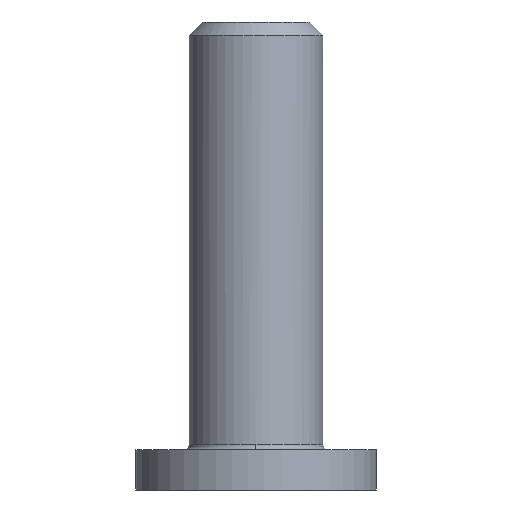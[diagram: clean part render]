
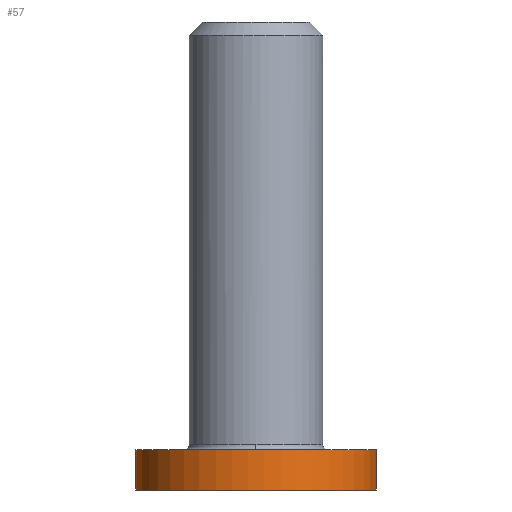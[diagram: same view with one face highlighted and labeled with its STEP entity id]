
A CAD part, left-side view. The second image highlights one B-rep face of the part: STEP entity #57.
In plain terms, the highlighted free-form (B-spline) face has degree [2, 1] with [9, 2] control points.
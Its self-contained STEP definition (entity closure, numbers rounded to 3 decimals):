
#57=ADVANCED_FACE('',(#82),#798,.T.);
#82=FACE_OUTER_BOUND('',#108,.T.);
#108=EDGE_LOOP('',(#213,#214,#215,#216));
#213=ORIENTED_EDGE('',*,*,#552,.F.);
#214=ORIENTED_EDGE('',*,*,#608,.T.);
#215=ORIENTED_EDGE('',*,*,#554,.F.);
#216=ORIENTED_EDGE('',*,*,#607,.F.);
#259=(
BOUNDED_CURVE()
B_SPLINE_CURVE(2,(#1603,#1604,#1605,#1606,#1607),.UNSPECIFIED.,.F.,.F.)
B_SPLINE_CURVE_WITH_KNOTS((3,2,3),(-14.137,-7.069,0.),
 .UNSPECIFIED.)
CURVE()
GEOMETRIC_REPRESENTATION_ITEM()
RATIONAL_B_SPLINE_CURVE((1.,0.707,1.,0.707,1.))
REPRESENTATION_ITEM('')
);
#260=(
BOUNDED_CURVE()
B_SPLINE_CURVE(2,(#1608,#1609,#1610,#1611,#1612),.UNSPECIFIED.,.F.,.F.)
B_SPLINE_CURVE_WITH_KNOTS((3,2,3),(-14.137,-7.069,0.),
 .UNSPECIFIED.)
CURVE()
GEOMETRIC_REPRESENTATION_ITEM()
RATIONAL_B_SPLINE_CURVE((1.,0.707,1.,0.707,1.))
REPRESENTATION_ITEM('')
);
#264=(
BOUNDED_CURVE()
B_SPLINE_CURVE(2,(#1626,#1627,#1628,#1629,#1630),.UNSPECIFIED.,.F.,.F.)
B_SPLINE_CURVE_WITH_KNOTS((3,2,3),(-14.137,-7.069,0.),
 .UNSPECIFIED.)
CURVE()
GEOMETRIC_REPRESENTATION_ITEM()
RATIONAL_B_SPLINE_CURVE((1.,0.707,1.,0.707,1.))
REPRESENTATION_ITEM('')
);
#265=(
BOUNDED_CURVE()
B_SPLINE_CURVE(2,(#1637,#1638,#1639,#1640,#1641),.UNSPECIFIED.,.F.,.F.)
B_SPLINE_CURVE_WITH_KNOTS((3,2,3),(-14.137,-7.069,0.),
 .UNSPECIFIED.)
CURVE()
GEOMETRIC_REPRESENTATION_ITEM()
RATIONAL_B_SPLINE_CURVE((1.,0.707,1.,0.707,1.))
REPRESENTATION_ITEM('')
);
#267=PCURVE('',#789,#381);
#269=PCURVE('',#789,#383);
#365=PCURVE('',#787,#479);
#369=PCURVE('',#798,#483);
#370=PCURVE('',#798,#484);
#371=PCURVE('',#798,#485);
#372=PCURVE('',#798,#486);
#373=PCURVE('',#788,#487);
#381=DEFINITIONAL_REPRESENTATION('',(#610),#1662);
#383=DEFINITIONAL_REPRESENTATION('',(#613),#1662);
#479=DEFINITIONAL_REPRESENTATION('',(#260),#1662);
#483=DEFINITIONAL_REPRESENTATION('',(#728),#1662);
#484=DEFINITIONAL_REPRESENTATION('',(#729),#1662);
#485=DEFINITIONAL_REPRESENTATION('',(#730),#1662);
#486=DEFINITIONAL_REPRESENTATION('',(#731),#1662);
#487=DEFINITIONAL_REPRESENTATION('',(#265),#1662);
#495=SURFACE_CURVE('',#609,(#267,#369),.PCURVE_S1.);
#497=SURFACE_CURVE('',#612,(#269,#371),.PCURVE_S1.);
#550=SURFACE_CURVE('',#259,(#365,#372),.PCURVE_S1.);
#551=SURFACE_CURVE('',#264,(#370,#373),.PCURVE_S1.);
#552=EDGE_CURVE('',#738,#739,#495,.T.);
#554=EDGE_CURVE('',#740,#741,#497,.T.);
#607=EDGE_CURVE('',#739,#740,#550,.T.);
#608=EDGE_CURVE('',#738,#741,#551,.T.);
#609=B_SPLINE_CURVE_WITH_KNOTS('',1,(#1243,#1244),.UNSPECIFIED.,.F.,.F.,
(2,2),(-1.5,0.),.UNSPECIFIED.);
#610=B_SPLINE_CURVE_WITH_KNOTS('',1,(#1245,#1246),.UNSPECIFIED.,.F.,.F.,
(2,2),(-1.5,0.),.UNSPECIFIED.);
#612=B_SPLINE_CURVE_WITH_KNOTS('',1,(#1254,#1255),.UNSPECIFIED.,.F.,.F.,
(2,2),(-1.5,0.),.UNSPECIFIED.);
#613=B_SPLINE_CURVE_WITH_KNOTS('',1,(#1256,#1257),.UNSPECIFIED.,.F.,.F.,
(2,2),(-1.5,0.),.UNSPECIFIED.);
#728=B_SPLINE_CURVE_WITH_KNOTS('',1,(#1624,#1625),.UNSPECIFIED.,.F.,.F.,
(2,2),(-1.5,0.),.UNSPECIFIED.);
#729=B_SPLINE_CURVE_WITH_KNOTS('',1,(#1631,#1632),.UNSPECIFIED.,.F.,.F.,
(2,2),(-14.137,0.),.UNSPECIFIED.);
#730=B_SPLINE_CURVE_WITH_KNOTS('',1,(#1633,#1634),.UNSPECIFIED.,.F.,.F.,
(2,2),(-1.5,0.),.UNSPECIFIED.);
#731=B_SPLINE_CURVE_WITH_KNOTS('',1,(#1635,#1636),.UNSPECIFIED.,.F.,.F.,
(2,2),(-14.137,0.),.UNSPECIFIED.);
#738=VERTEX_POINT('',#1207);
#739=VERTEX_POINT('',#1208);
#740=VERTEX_POINT('',#1209);
#741=VERTEX_POINT('',#1210);
#787=PLANE('',#854);
#788=PLANE('',#855);
#789=(
BOUNDED_SURFACE()
B_SPLINE_SURFACE(2,1,((#886,#887),(#888,#889),(#890,#891),(#892,#893),(#894,
#895),(#896,#897),(#898,#899),(#900,#901),(#902,#903)),.UNSPECIFIED.,.T.,
 .F.,.F.)
B_SPLINE_SURFACE_WITH_KNOTS((3,2,2,2,3),(2,2),(0.,1.571,3.142,
4.712,6.283),(0.,1.802),.UNSPECIFIED.)
GEOMETRIC_REPRESENTATION_ITEM()
RATIONAL_B_SPLINE_SURFACE(((1.,1.),(0.707,0.707),
(1.,1.),(0.707,0.707),(1.,1.),(0.707,
0.707),(1.,1.),(0.707,0.707),(1.,1.)))
REPRESENTATION_ITEM('')
SURFACE()
);
#798=(
BOUNDED_SURFACE()
B_SPLINE_SURFACE(2,1,((#1188,#1189),(#1190,#1191),(#1192,#1193),(#1194,#1195),
(#1196,#1197),(#1198,#1199),(#1200,#1201),(#1202,#1203),(#1204,#1205)),
 .UNSPECIFIED.,.T.,.F.,.F.)
B_SPLINE_SURFACE_WITH_KNOTS((3,2,2,2,3),(2,2),(0.,1.571,3.142,
4.712,6.283),(0.,1.802),.UNSPECIFIED.)
GEOMETRIC_REPRESENTATION_ITEM()
RATIONAL_B_SPLINE_SURFACE(((1.,1.),(0.707,0.707),
(1.,1.),(0.707,0.707),(1.,1.),(0.707,
0.707),(1.,1.),(0.707,0.707),(1.,1.)))
REPRESENTATION_ITEM('')
SURFACE()
);
#854=AXIS2_PLACEMENT_3D('',#1187,#876,$);
#855=AXIS2_PLACEMENT_3D('',#1206,#877,$);
#876=DIRECTION('',(1.,0.,0.));
#877=DIRECTION('',(-1.,0.,0.));
#886=CARTESIAN_POINT('',(-1.651,4.5,0.));
#887=CARTESIAN_POINT('',(0.151,4.5,0.));
#888=CARTESIAN_POINT('',(-1.651,4.5,4.5));
#889=CARTESIAN_POINT('',(0.151,4.5,4.5));
#890=CARTESIAN_POINT('',(-1.651,0.,4.5));
#891=CARTESIAN_POINT('',(0.151,0.,4.5));
#892=CARTESIAN_POINT('',(-1.651,-4.5,4.5));
#893=CARTESIAN_POINT('',(0.151,-4.5,4.5));
#894=CARTESIAN_POINT('',(-1.651,-4.5,0.));
#895=CARTESIAN_POINT('',(0.151,-4.5,0.));
#896=CARTESIAN_POINT('',(-1.651,-4.5,-4.5));
#897=CARTESIAN_POINT('',(0.151,-4.5,-4.5));
#898=CARTESIAN_POINT('',(-1.651,0.,-4.5));
#899=CARTESIAN_POINT('',(0.151,0.,-4.5));
#900=CARTESIAN_POINT('',(-1.651,4.5,-4.5));
#901=CARTESIAN_POINT('',(0.151,4.5,-4.5));
#902=CARTESIAN_POINT('',(-1.651,4.5,0.));
#903=CARTESIAN_POINT('',(0.151,4.5,0.));
#1187=CARTESIAN_POINT('',(0.,5.401,-5.401));
#1188=CARTESIAN_POINT('',(-1.651,-4.5,0.));
#1189=CARTESIAN_POINT('',(0.151,-4.5,0.));
#1190=CARTESIAN_POINT('',(-1.651,-4.5,-4.5));
#1191=CARTESIAN_POINT('',(0.151,-4.5,-4.5));
#1192=CARTESIAN_POINT('',(-1.651,0.,-4.5));
#1193=CARTESIAN_POINT('',(0.151,0.,-4.5));
#1194=CARTESIAN_POINT('',(-1.651,4.5,-4.5));
#1195=CARTESIAN_POINT('',(0.151,4.5,-4.5));
#1196=CARTESIAN_POINT('',(-1.651,4.5,0.));
#1197=CARTESIAN_POINT('',(0.151,4.5,0.));
#1198=CARTESIAN_POINT('',(-1.651,4.5,4.5));
#1199=CARTESIAN_POINT('',(0.151,4.5,4.5));
#1200=CARTESIAN_POINT('',(-1.651,0.,4.5));
#1201=CARTESIAN_POINT('',(0.151,0.,4.5));
#1202=CARTESIAN_POINT('',(-1.651,-4.5,4.5));
#1203=CARTESIAN_POINT('',(0.151,-4.5,4.5));
#1204=CARTESIAN_POINT('',(-1.651,-4.5,0.));
#1205=CARTESIAN_POINT('',(0.151,-4.5,0.));
#1206=CARTESIAN_POINT('',(-1.5,5.401,5.401));
#1207=CARTESIAN_POINT('',(-1.5,0.,-4.5));
#1208=CARTESIAN_POINT('',(0.,0.,-4.5));
#1209=CARTESIAN_POINT('',(0.,0.,4.5));
#1210=CARTESIAN_POINT('',(-1.5,0.,4.5));
#1243=CARTESIAN_POINT('',(-1.5,0.,-4.5));
#1244=CARTESIAN_POINT('',(0.,0.,-4.5));
#1245=CARTESIAN_POINT('',(4.712,0.151));
#1246=CARTESIAN_POINT('',(4.712,1.651));
#1254=CARTESIAN_POINT('',(0.,0.,4.5));
#1255=CARTESIAN_POINT('',(-1.5,0.,4.5));
#1256=CARTESIAN_POINT('',(1.571,1.651));
#1257=CARTESIAN_POINT('',(1.571,0.151));
#1603=CARTESIAN_POINT('',(0.,0.,-4.5));
#1604=CARTESIAN_POINT('',(0.,4.5,-4.5));
#1605=CARTESIAN_POINT('',(0.,4.5,0.));
#1606=CARTESIAN_POINT('',(0.,4.5,4.5));
#1607=CARTESIAN_POINT('',(0.,0.,4.5));
#1608=CARTESIAN_POINT('',(-0.9,0.));
#1609=CARTESIAN_POINT('',(-0.9,-4.5));
#1610=CARTESIAN_POINT('',(3.6,-4.5));
#1611=CARTESIAN_POINT('',(8.1,-4.5));
#1612=CARTESIAN_POINT('',(8.1,0.));
#1624=CARTESIAN_POINT('',(1.571,0.151));
#1625=CARTESIAN_POINT('',(1.571,1.651));
#1626=CARTESIAN_POINT('',(-1.5,0.,-4.5));
#1627=CARTESIAN_POINT('',(-1.5,4.5,-4.5));
#1628=CARTESIAN_POINT('',(-1.5,4.5,0.));
#1629=CARTESIAN_POINT('',(-1.5,4.5,4.5));
#1630=CARTESIAN_POINT('',(-1.5,0.,4.5));
#1631=CARTESIAN_POINT('',(1.571,0.151));
#1632=CARTESIAN_POINT('',(4.712,0.151));
#1633=CARTESIAN_POINT('',(4.712,1.651));
#1634=CARTESIAN_POINT('',(4.712,0.151));
#1635=CARTESIAN_POINT('',(1.571,1.651));
#1636=CARTESIAN_POINT('',(4.712,1.651));
#1637=CARTESIAN_POINT('',(2.25,0.));
#1638=CARTESIAN_POINT('',(2.25,-4.5));
#1639=CARTESIAN_POINT('',(-2.25,-4.5));
#1640=CARTESIAN_POINT('',(-6.75,-4.5));
#1641=CARTESIAN_POINT('',(-6.75,0.));
#1662=(
GEOMETRIC_REPRESENTATION_CONTEXT(2)
PARAMETRIC_REPRESENTATION_CONTEXT()
REPRESENTATION_CONTEXT('pspace','')
);
